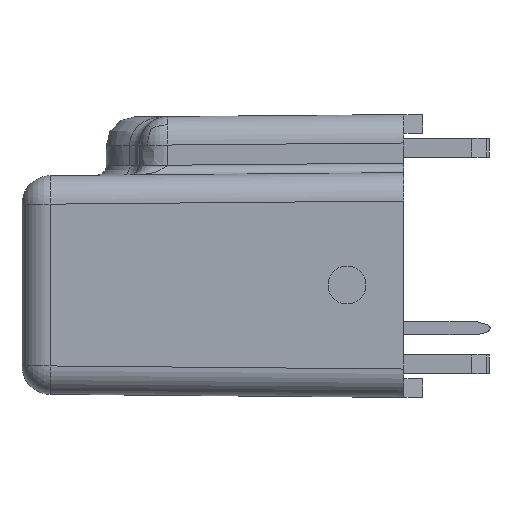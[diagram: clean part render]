
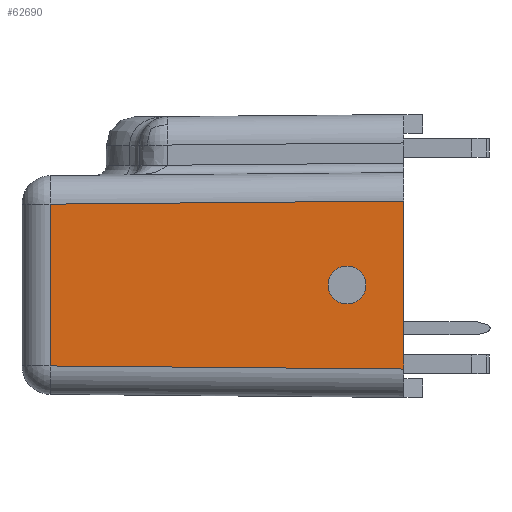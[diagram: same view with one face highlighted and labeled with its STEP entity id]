
A CAD part, left-side view. The second image highlights one B-rep face of the part: STEP entity #62690.
In plain terms, the highlighted planar face has unit normal (-1, 0.009, 0).
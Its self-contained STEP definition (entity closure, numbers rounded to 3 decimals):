
#290=CARTESIAN_POINT('',(44.151,-4.782,
-4.705));
#300=VERTEX_POINT('',#290);
#330=CARTESIAN_POINT('',(44.151,-4.782,0.));
#340=DIRECTION('',(0.,0.,-1.));
#350=VECTOR('',#340,1.);
#360=LINE('',#330,#350);
#370=CARTESIAN_POINT('',(44.151,-4.782,
4.16));
#380=VERTEX_POINT('',#370);
#390=EDGE_CURVE('',#380,#300,#360,.T.);
#6460=CARTESIAN_POINT('',(44.314,13.881,0.));
#6470=DIRECTION('',(0.,0.,-1.));
#6480=VECTOR('',#6470,1.);
#6490=LINE('',#6460,#6480);
#6500=CARTESIAN_POINT('',(44.314,13.881,
3.997));
#6510=VERTEX_POINT('',#6500);
#6520=CARTESIAN_POINT('',(44.314,13.881,
-4.542));
#6530=VERTEX_POINT('',#6520);
#6540=EDGE_CURVE('',#6510,#6530,#6490,.T.);
#57040=CARTESIAN_POINT('',(44.178,-1.782,
0.728));
#57050=VERTEX_POINT('',#57040);
#57080=CARTESIAN_POINT('',(44.178,-1.782,
-0.272));
#57090=DIRECTION('',(-1.,0.009,0.));
#57100=DIRECTION('',(0.,0.,1.));
#57110=AXIS2_PLACEMENT_3D('',#57080,#57090,#57100);
#57120=CIRCLE('',#57110,1.);
#57130=CARTESIAN_POINT('',(44.178,-1.782,
-1.272));
#57140=VERTEX_POINT('',#57130);
#57150=EDGE_CURVE('',#57140,#57050,#57120,.T.);
#62430=CARTESIAN_POINT('',(44.151,-4.782,0.));
#62440=DIRECTION('',(-1.,0.009,0.));
#62450=DIRECTION('',(0.009,1.,0.));
#62460=AXIS2_PLACEMENT_3D('',#62430,#62440,#62450);
#62470=PLANE('',#62460);
#62480=EDGE_CURVE('',#57050,#57140,#57120,.T.);
#62490=ORIENTED_EDGE('',*,*,#62480,.F.);
#62500=ORIENTED_EDGE('',*,*,#57150,.F.);
#62510=EDGE_LOOP('',(#62500,#62490));
#62520=FACE_BOUND('',#62510,.T.);
#62530=ORIENTED_EDGE('',*,*,#6540,.T.);
#62540=CARTESIAN_POINT('',(44.193,0.013,
4.118));
#62550=DIRECTION('',(-0.009,-1.,
0.009));
#62560=VECTOR('',#62550,1.);
#62570=LINE('',#62540,#62560);
#62580=EDGE_CURVE('',#6510,#380,#62570,.T.);
#62590=ORIENTED_EDGE('',*,*,#62580,.F.);
#62600=ORIENTED_EDGE('',*,*,#390,.F.);
#62610=CARTESIAN_POINT('',(44.193,0.013,
-4.663));
#62620=DIRECTION('',(0.009,1.,
0.009));
#62630=VECTOR('',#62620,1.);
#62640=LINE('',#62610,#62630);
#62650=EDGE_CURVE('',#300,#6530,#62640,.T.);
#62660=ORIENTED_EDGE('',*,*,#62650,.F.);
#62670=EDGE_LOOP('',(#62660,#62600,#62590,#62530));
#62680=FACE_OUTER_BOUND('',#62670,.T.);
#62690=ADVANCED_FACE('',(#62520,#62680),#62470,.T.);
